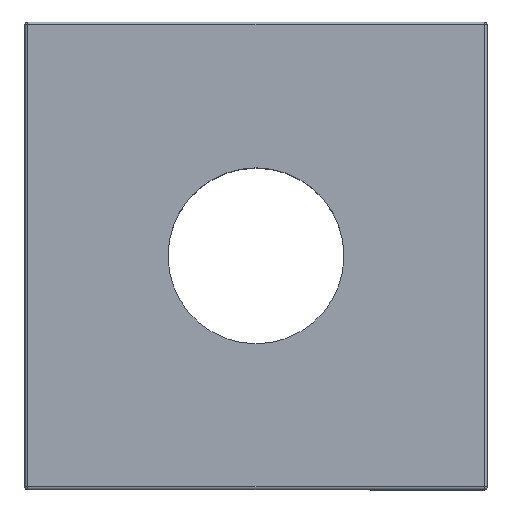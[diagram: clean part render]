
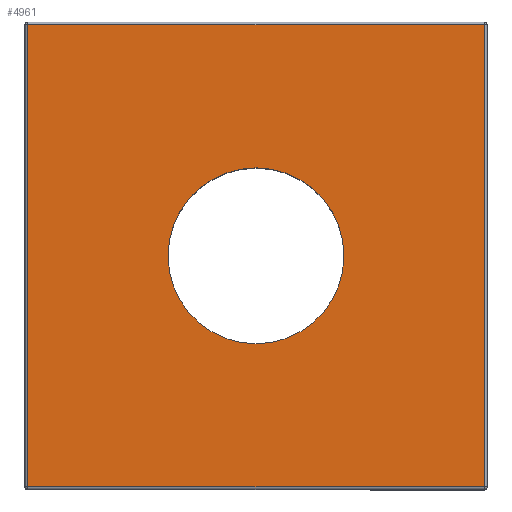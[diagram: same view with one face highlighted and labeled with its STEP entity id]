
A CAD part, top view. The second image highlights one B-rep face of the part: STEP entity #4961.
In plain terms, the highlighted planar face has unit normal (0, 0, 1).
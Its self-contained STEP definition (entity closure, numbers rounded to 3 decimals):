
#41 = EDGE_CURVE ( 'NONE', #346, #1819, #1606, .T. ) ;
#110 = EDGE_CURVE ( 'NONE', #974, #6142, #1763, .T. ) ;
#168 = CARTESIAN_POINT ( 'NONE',  ( 2262.642, -615.106, 0. ) ) ;
#231 = PLANE ( 'NONE',  #2434 ) ;
#243 = LINE ( 'NONE', #6303, #5459 ) ;
#346 = VERTEX_POINT ( 'NONE', #3931 ) ;
#652 = CIRCLE ( 'NONE', #6100, 7.9 ) ;
#660 = EDGE_CURVE ( 'NONE', #1819, #346, #652, .T. ) ;
#689 = EDGE_CURVE ( 'NONE', #6142, #1013, #2069, .T. ) ;
#789 = DIRECTION ( 'NONE',  ( 1., 0., 0. ) ) ;
#854 = ORIENTED_EDGE ( 'NONE', *, *, #660, .F. ) ;
#974 = VERTEX_POINT ( 'NONE', #3234 ) ;
#1013 = VERTEX_POINT ( 'NONE', #168 ) ;
#1100 = CARTESIAN_POINT ( 'NONE',  ( 2303.642, -615.106, 0. ) ) ;
#1251 = CARTESIAN_POINT ( 'NONE',  ( 2283.142, -635.856, 0. ) ) ;
#1319 = CARTESIAN_POINT ( 'NONE',  ( 2283.142, -656.606, 0. ) ) ;
#1384 = EDGE_LOOP ( 'NONE', ( #3910, #4098, #2222, #2950 ) ) ;
#1606 = CIRCLE ( 'NONE', #4195, 7.9 ) ;
#1608 = CARTESIAN_POINT ( 'NONE',  ( 2283.142, -635.856, 0. ) ) ;
#1763 = LINE ( 'NONE', #1319, #3184 ) ;
#1819 = VERTEX_POINT ( 'NONE', #2826 ) ;
#1860 = FACE_OUTER_BOUND ( 'NONE', #1384, .T. ) ;
#2069 = LINE ( 'NONE', #3081, #3179 ) ;
#2222 = ORIENTED_EDGE ( 'NONE', *, *, #689, .F. ) ;
#2434 = AXIS2_PLACEMENT_3D ( 'NONE', #5767, #5127, #6129 ) ;
#2654 = FACE_BOUND ( 'NONE', #3303, .T. ) ;
#2826 = CARTESIAN_POINT ( 'NONE',  ( 2275.242, -635.856, 0. ) ) ;
#2950 = ORIENTED_EDGE ( 'NONE', *, *, #110, .F. ) ;
#3054 = DIRECTION ( 'NONE',  ( 0., 0., 1. ) ) ;
#3081 = CARTESIAN_POINT ( 'NONE',  ( 2262.642, -635.856, 0. ) ) ;
#3179 = VECTOR ( 'NONE', #5609, 1000. ) ;
#3184 = VECTOR ( 'NONE', #4846, 1000. ) ;
#3234 = CARTESIAN_POINT ( 'NONE',  ( 2303.642, -656.606, 0. ) ) ;
#3303 = EDGE_LOOP ( 'NONE', ( #5949, #854 ) ) ;
#3345 = DIRECTION ( 'NONE',  ( 0., -1., 0. ) ) ;
#3753 = DIRECTION ( 'NONE',  ( 0., 0., 1. ) ) ;
#3775 = LINE ( 'NONE', #5838, #4322 ) ;
#3910 = ORIENTED_EDGE ( 'NONE', *, *, #4694, .F. ) ;
#3931 = CARTESIAN_POINT ( 'NONE',  ( 2291.042, -635.856, 0. ) ) ;
#4095 = DIRECTION ( 'NONE',  ( 1., 0., 0. ) ) ;
#4098 = ORIENTED_EDGE ( 'NONE', *, *, #5858, .F. ) ;
#4195 = AXIS2_PLACEMENT_3D ( 'NONE', #1251, #3753, #6260 ) ;
#4322 = VECTOR ( 'NONE', #3345, 1000. ) ;
#4694 = EDGE_CURVE ( 'NONE', #6314, #974, #3775, .T. ) ;
#4846 = DIRECTION ( 'NONE',  ( -1., 0., 0. ) ) ;
#4961 = ADVANCED_FACE ( 'NONE', ( #1860, #2654 ), #231, .F. ) ;
#5127 = DIRECTION ( 'NONE',  ( 0., 0., -1. ) ) ;
#5459 = VECTOR ( 'NONE', #789, 1000. ) ;
#5609 = DIRECTION ( 'NONE',  ( 0., 1., 0. ) ) ;
#5767 = CARTESIAN_POINT ( 'NONE',  ( 2283.142, -635.856, 0. ) ) ;
#5838 = CARTESIAN_POINT ( 'NONE',  ( 2303.642, -635.856, 0. ) ) ;
#5858 = EDGE_CURVE ( 'NONE', #1013, #6314, #243, .T. ) ;
#5949 = ORIENTED_EDGE ( 'NONE', *, *, #41, .F. ) ;
#6100 = AXIS2_PLACEMENT_3D ( 'NONE', #1608, #3054, #4095 ) ;
#6129 = DIRECTION ( 'NONE',  ( -1., 0., 0. ) ) ;
#6142 = VERTEX_POINT ( 'NONE', #6420 ) ;
#6260 = DIRECTION ( 'NONE',  ( 1., 0., 0. ) ) ;
#6303 = CARTESIAN_POINT ( 'NONE',  ( 2283.142, -615.106, 0. ) ) ;
#6314 = VERTEX_POINT ( 'NONE', #1100 ) ;
#6420 = CARTESIAN_POINT ( 'NONE',  ( 2262.642, -656.606, 0. ) ) ;
